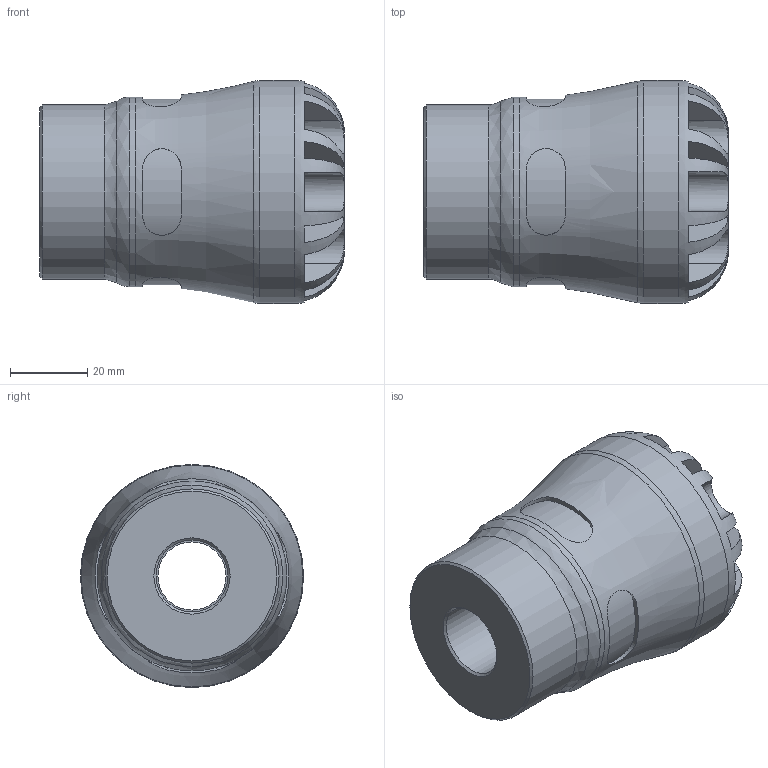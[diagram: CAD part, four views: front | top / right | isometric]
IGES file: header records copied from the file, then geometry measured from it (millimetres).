
Global section: file name: 1003Z0010010.ipt; native system: Autodesk Inventor 2019; preprocessor: unknown; author: KIM; date: 20210902.120244; units: inch
Bounding box: 78.99 x 57.91 x 57.91 mm (x, y, z)
Volume: 111413.1 mm3; surface area: 25101.5 mm2
Topology: 1 solids, 1 shells, 104 faces, 270 edges, 174 vertices
Faces by surface type: plane 61, revolution 27, cylinder 15, cone 1
Full cylindrical faces by diameter (mm): 45.171 x1, 49.225 x1, 57.912 x1
